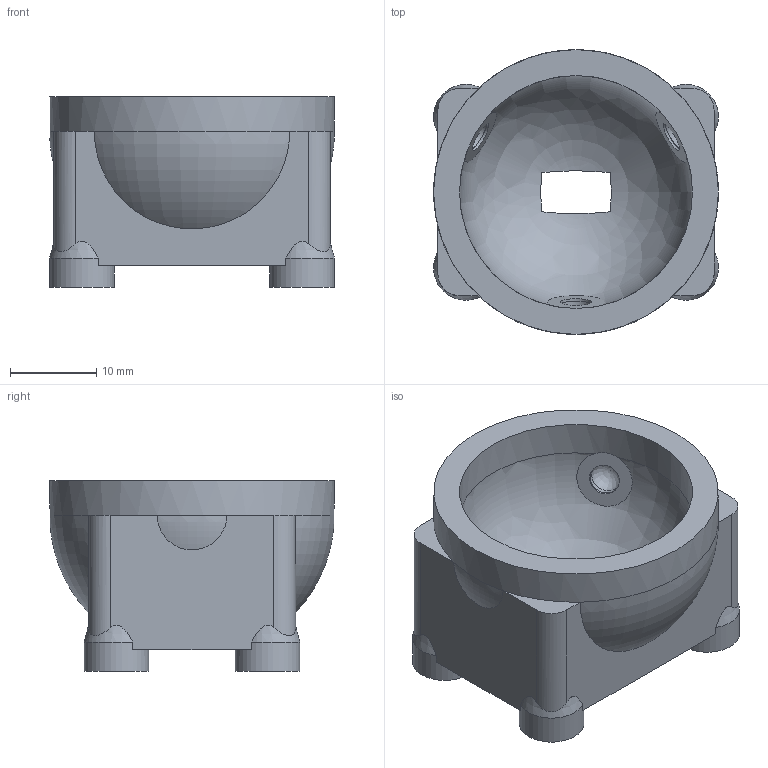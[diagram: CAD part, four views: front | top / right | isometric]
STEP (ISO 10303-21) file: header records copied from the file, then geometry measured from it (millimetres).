
FILE_DESCRIPTION(('Open CASCADE Model'),'2;1');
FILE_NAME('Open CASCADE Shape Model','2026-05-31T19:42:44',('Author'),( 'Open CASCADE'),'Open CASCADE STEP processor 7.6','Open CASCADE 7.6' ,'Unknown');
FILE_SCHEMA(('AP242_MANAGED_MODEL_BASED_3D_ENGINEERING_MIM_LF. {1 0 10303 442 1 1 4 }'));
Length unit declared in the file: millimetre
Products named in the file (1): Open CASCADE STEP translator 7.6 5
Bounding box: 33 x 33 x 22.1 mm (x, y, z)
Volume: 8819.9 mm3; surface area: 5339.5 mm2
Topology: 1 solids, 1 shells, 77 faces, 187 edges, 120 vertices
Faces by surface type: plane 34, cylinder 24, revolution 11, bspline 4, cone 4
Full cylindrical faces by diameter (mm): 3.5 x4, 3.57 x3, 3.572 x3, 7.5 x4, 27 x1, 33 x1
Entity records: 9749 total; most frequent: CARTESIAN_POINT 6084, DIRECTION 660, ORIENTED_EDGE 368, PCURVE 368, DEFINITIONAL_REPRESENTATION 368, LINE 311, VECTOR 311, EDGE_CURVE 184
